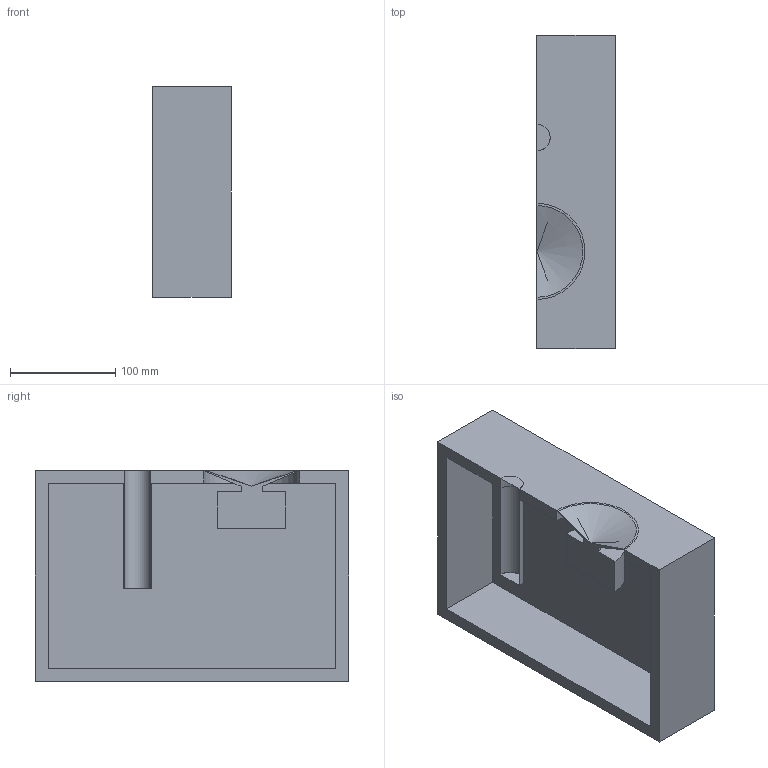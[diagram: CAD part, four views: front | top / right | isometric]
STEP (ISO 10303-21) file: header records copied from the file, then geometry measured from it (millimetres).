
FILE_DESCRIPTION((''),'2;1');
FILE_NAME('HALF_ASM','2016-01-19T',('2012s'),(''),'PRO/ENGINEER BY PARAMETRIC TECHNOLOGY CORPORATION, 2014200','PRO/ENGINEER BY PARAMETRIC TECHNOLOGY CORPORATION, 2014200','');
FILE_SCHEMA(('CONFIG_CONTROL_DESIGN'));
Length unit declared in the file: millimetre
Products named in the file (3): ABEC; INTERFACE; HALF_ASM
Assembly tree (2 placements, depth 2):
  HALF_ASM
    ABEC
    INTERFACE
Bounding box: 74 x 297 x 200 mm (x, y, z)
Volume: 1441271 mm3; surface area: 266664.1 mm2
Topology: 2 solids, 4 shells, 26 faces, 66 edges, 45 vertices
Faces by surface type: plane 17, cylinder 5, cone 2, bspline 2
Entity records: 984 total; most frequent: CARTESIAN_POINT 275, DIRECTION 131, ORIENTED_EDGE 126, EDGE_CURVE 65, VECTOR 49, LINE 49, VERTEX_POINT 45, AXIS2_PLACEMENT_3D 41
